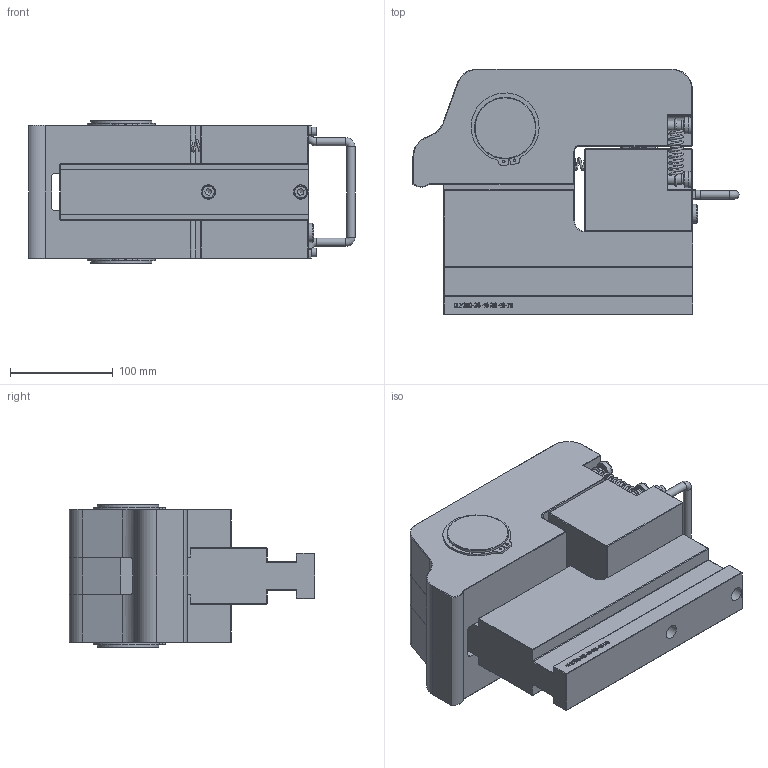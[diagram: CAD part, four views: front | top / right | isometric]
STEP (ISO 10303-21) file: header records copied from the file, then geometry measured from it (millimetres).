
FILE_DESCRIPTION(/* description */ (''),/* implementation_level */ '2;1');
FILE_NAME(/* name */ 'C:\Users\fei.zhao\Desktop\ELY250-28-46-28-48-75.stp',/* time_stamp */ '2022-04-28T16:09:05+08:00',/* author */ ('fei.zhao'),/* organization */ (''),/* preprocessor_version */ 'ST-DEVELOPER v17',/* originating_system */ 'Autodesk Inventor 2019',/* authorisation */ '');
FILE_SCHEMA (('AUTOMOTIVE_DESIGN { 1 0 10303 214 3 1 1 }'));
Length unit declared in the file: millimetre
Products named in the file (1): ELY250-28-46-28-48-75_Shrinkwrap_1
Bounding box: 318 x 239.5 x 140 mm (x, y, z)
Volume: 5098988.3 mm3; surface area: 444708.2 mm2
Topology: 2 solids, 2 shells, 929 faces, 2460 edges, 1590 vertices
Faces by surface type: plane 513, bspline 235, cylinder 92, cone 60, torus 25, sphere 4
Full cylindrical faces by diameter (mm): 2.5 x4, 5 x1, 6 x1, 8 x3, 8.5 x2, 9.42 x4, 10 x4, 11.445 x1, 13 x4, 14 x2, 16 x4, 18.8 x1, 39.98 x1, 50 x1, 57 x2, 59.95 x3, 60 x3, 69 x1, 74.94 x2, 75 x1, 78 x1, 82 x1
Entity records: 35242 total; most frequent: CARTESIAN_POINT 12669, ORIENTED_EDGE 4896, DIRECTION 3723, EDGE_CURVE 2448, VERTEX_POINT 1590, LINE 1437, VECTOR 1437, AXIS2_PLACEMENT_3D 1143
